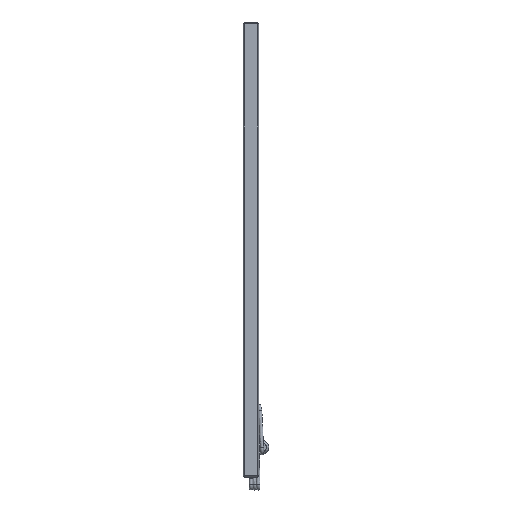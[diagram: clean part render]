
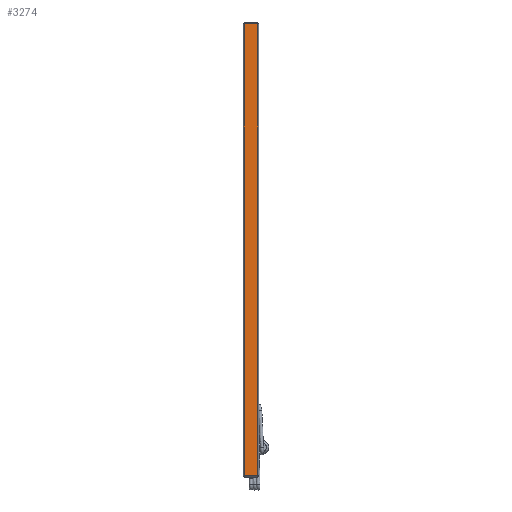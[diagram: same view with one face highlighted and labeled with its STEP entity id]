
A CAD part, front view. The second image highlights one B-rep face of the part: STEP entity #3274.
In plain terms, the highlighted planar face has unit normal (0, -1, 0).
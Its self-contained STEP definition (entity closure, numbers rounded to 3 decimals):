
#2996=CARTESIAN_POINT('',(18.421,0.,1219.2));
#2997=VERTEX_POINT('',#2996);
#3005=CARTESIAN_POINT('',(18.421,0.,0.0));
#3006=VERTEX_POINT('',#3005);
#3007=CARTESIAN_POINT('',(18.421,0.0,1219.2));
#3008=DIRECTION('',(0.0,0.0,-1.0));
#3009=VECTOR('',#3008,1219.2);
#3010=LINE('',#3007,#3009);
#3011=EDGE_CURVE('',#2997,#3006,#3010,.T.);
#3037=CARTESIAN_POINT('',(-18.421,0.,0.0));
#3038=VERTEX_POINT('',#3037);
#3039=CARTESIAN_POINT('',(-18.421,0.,0.0));
#3040=DIRECTION('',(1.0,0.0,0.0));
#3041=VECTOR('',#3040,36.842);
#3042=LINE('',#3039,#3041);
#3043=EDGE_CURVE('',#3038,#3006,#3042,.T.);
#3251=CARTESIAN_POINT('',(18.735,0.0,0.0));
#3252=DIRECTION('',(0.0,-1.0,0.0));
#3253=DIRECTION('',(0.0,0.0,-1.0));
#3254=AXIS2_PLACEMENT_3D('',#3251,#3252,#3253);
#3255=PLANE('',#3254);
#3256=ORIENTED_EDGE('',*,*,#3011,.F.);
#3257=CARTESIAN_POINT('',(-18.421,0.,1219.2));
#3258=VERTEX_POINT('',#3257);
#3259=CARTESIAN_POINT('',(18.421,0.,1219.2));
#3260=DIRECTION('',(-1.0,0.0,0.0));
#3261=VECTOR('',#3260,36.842);
#3262=LINE('',#3259,#3261);
#3263=EDGE_CURVE('',#2997,#3258,#3262,.T.);
#3264=ORIENTED_EDGE('',*,*,#3263,.T.);
#3265=CARTESIAN_POINT('',(-18.421,0.0,0.0));
#3266=DIRECTION('',(0.0,0.0,1.0));
#3267=VECTOR('',#3266,1219.2);
#3268=LINE('',#3265,#3267);
#3269=EDGE_CURVE('',#3038,#3258,#3268,.T.);
#3270=ORIENTED_EDGE('',*,*,#3269,.F.);
#3271=ORIENTED_EDGE('',*,*,#3043,.T.);
#3272=EDGE_LOOP('',(#3256,#3264,#3270,#3271));
#3273=FACE_OUTER_BOUND('',#3272,.T.);
#3274=ADVANCED_FACE('',(#3273),#3255,.T.);
